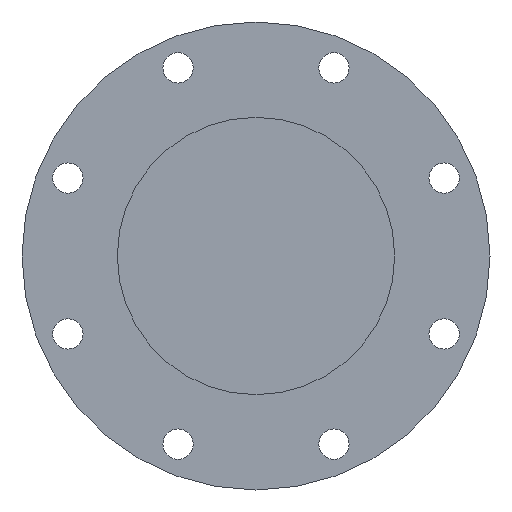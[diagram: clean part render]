
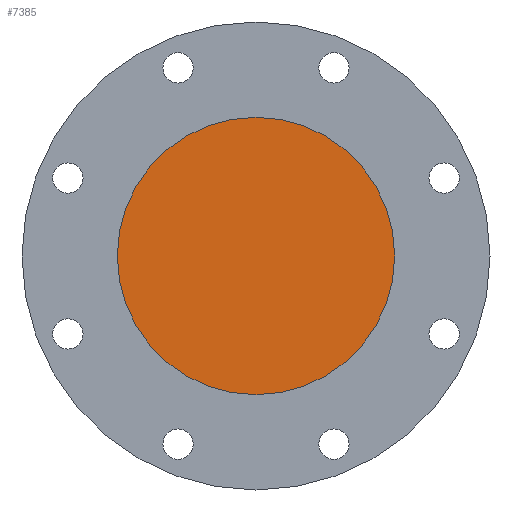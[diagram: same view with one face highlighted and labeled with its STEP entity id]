
A CAD part, left-side view. The second image highlights one B-rep face of the part: STEP entity #7385.
In plain terms, the highlighted planar face has unit normal (-1, 0, 0).
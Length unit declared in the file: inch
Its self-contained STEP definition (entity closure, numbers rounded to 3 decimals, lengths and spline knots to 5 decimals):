
#18 = ORIENTED_EDGE ( 'NONE', *, *, #8826, .T. ) ;
#1771 = DIRECTION ( 'NONE',  ( 1., 0., 0. ) ) ;
#3079 = EDGE_LOOP ( 'NONE', ( #5694, #18 ) ) ;
#5021 = CARTESIAN_POINT ( 'NONE',  ( -5.08637, 0., 4. ) ) ;
#5105 = AXIS2_PLACEMENT_3D ( 'NONE', #11487, #13868, #7212 ) ;
#5694 = ORIENTED_EDGE ( 'NONE', *, *, #13789, .T. ) ;
#6234 = VERTEX_POINT ( 'NONE', #5021 ) ;
#6386 = CARTESIAN_POINT ( 'NONE',  ( -5.08637, 4.14848, 0. ) ) ;
#6629 = CIRCLE ( 'NONE', #5105, 4. ) ;
#7050 = CARTESIAN_POINT ( 'NONE',  ( -5.08637, 0., -4. ) ) ;
#7212 = DIRECTION ( 'NONE',  ( 0., 0., -1. ) ) ;
#7221 = CIRCLE ( 'NONE', #12224, 4. ) ;
#7333 = DIRECTION ( 'NONE',  ( -1., 0., 0. ) ) ;
#7385 = ADVANCED_FACE ( 'NONE', ( #10887 ), #8484, .F. ) ;
#7822 = AXIS2_PLACEMENT_3D ( 'NONE', #6386, #1771, #10818 ) ;
#8484 = PLANE ( 'NONE',  #7822 ) ;
#8826 = EDGE_CURVE ( 'NONE', #11823, #6234, #7221, .T. ) ;
#10818 = DIRECTION ( 'NONE',  ( 0., 0., -1. ) ) ;
#10887 = FACE_OUTER_BOUND ( 'NONE', #3079, .T. ) ;
#11487 = CARTESIAN_POINT ( 'NONE',  ( -5.08637, 0., 0. ) ) ;
#11823 = VERTEX_POINT ( 'NONE', #7050 ) ;
#12224 = AXIS2_PLACEMENT_3D ( 'NONE', #12867, #7333, #12919 ) ;
#12867 = CARTESIAN_POINT ( 'NONE',  ( -5.08637, 0., 0. ) ) ;
#12919 = DIRECTION ( 'NONE',  ( 0., 0., -1. ) ) ;
#13789 = EDGE_CURVE ( 'NONE', #6234, #11823, #6629, .T. ) ;
#13868 = DIRECTION ( 'NONE',  ( -1., 0., 0. ) ) ;
